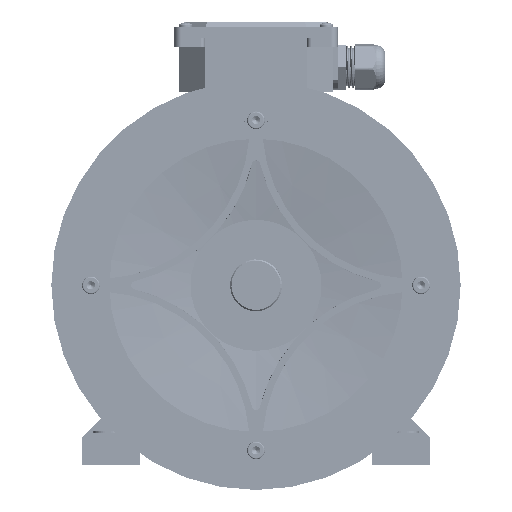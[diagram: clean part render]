
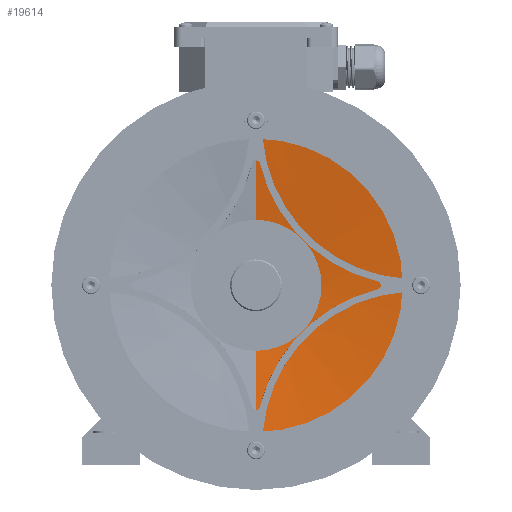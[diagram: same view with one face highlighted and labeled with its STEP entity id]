
A CAD part, front view. The second image highlights one B-rep face of the part: STEP entity #19614.
In plain terms, the highlighted conical face has half-angle 83.29 degrees and reference radius 48 mm.
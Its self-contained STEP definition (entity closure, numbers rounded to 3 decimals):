
#4152 = DIRECTION ( 'NONE',  ( 0., -1., 0. ) ) ;
#4376 = DIRECTION ( 'NONE',  ( 0., -1., 0. ) ) ;
#9100 = VECTOR ( 'NONE', #101259, 1000. ) ;
#13973 = VECTOR ( 'NONE', #22077, 1000. ) ;
#19614 = ADVANCED_FACE ( 'NONE', ( #115448 ), #111971, .F. ) ;
#21231 = CIRCLE ( 'NONE', #49731, 48. ) ;
#22077 = DIRECTION ( 'NONE',  ( 0., -0.117, 0.993 ) ) ;
#30623 = VERTEX_POINT ( 'NONE', #129067 ) ;
#38181 = AXIS2_PLACEMENT_3D ( 'NONE', #42997, #87299, #54049 ) ;
#39614 = CARTESIAN_POINT ( 'NONE',  ( 0., 8.363, -107.5 ) ) ;
#42997 = CARTESIAN_POINT ( 'NONE',  ( 0., 15.363, 0. ) ) ;
#45414 = EDGE_CURVE ( 'NONE', #124846, #135078, #100401, .T. ) ;
#47561 = CARTESIAN_POINT ( 'NONE',  ( 0., 8.363, 107.5 ) ) ;
#49731 = AXIS2_PLACEMENT_3D ( 'NONE', #70236, #4376, #81296 ) ;
#53763 = ORIENTED_EDGE ( 'NONE', *, *, #94667, .F. ) ;
#54049 = DIRECTION ( 'NONE',  ( 0., 0., -1. ) ) ;
#63306 = EDGE_CURVE ( 'NONE', #135078, #114547, #114231, .T. ) ;
#70018 = CARTESIAN_POINT ( 'NONE',  ( 0., 8.363, 0. ) ) ;
#70236 = CARTESIAN_POINT ( 'NONE',  ( 0., 15.363, 0. ) ) ;
#79059 = CARTESIAN_POINT ( 'NONE',  ( 0., 15.363, -48. ) ) ;
#80756 = AXIS2_PLACEMENT_3D ( 'NONE', #70018, #4152, #81068 ) ;
#81068 = DIRECTION ( 'NONE',  ( 0., 0., -1. ) ) ;
#81296 = DIRECTION ( 'NONE',  ( 0., 0., -1. ) ) ;
#82767 = CARTESIAN_POINT ( 'NONE',  ( 0., 15.363, -48. ) ) ;
#87299 = DIRECTION ( 'NONE',  ( 0., -1., 0. ) ) ;
#94667 = EDGE_CURVE ( 'NONE', #124846, #30623, #21231, .T. ) ;
#98367 = LINE ( 'NONE', #121208, #13973 ) ;
#100401 = LINE ( 'NONE', #79059, #9100 ) ;
#101259 = DIRECTION ( 'NONE',  ( 0., -0.117, -0.993 ) ) ;
#103931 = ORIENTED_EDGE ( 'NONE', *, *, #126792, .F. ) ;
#108089 = ORIENTED_EDGE ( 'NONE', *, *, #45414, .T. ) ;
#111971 = CONICAL_SURFACE ( 'NONE', #38181, 48., 1.454 ) ;
#113702 = EDGE_LOOP ( 'NONE', ( #103931, #53763, #108089, #131581 ) ) ;
#114231 = CIRCLE ( 'NONE', #80756, 107.5 ) ;
#114547 = VERTEX_POINT ( 'NONE', #47561 ) ;
#115448 = FACE_OUTER_BOUND ( 'NONE', #113702, .T. ) ;
#121208 = CARTESIAN_POINT ( 'NONE',  ( 0., 15.363, 48. ) ) ;
#124846 = VERTEX_POINT ( 'NONE', #82767 ) ;
#126792 = EDGE_CURVE ( 'NONE', #30623, #114547, #98367, .T. ) ;
#129067 = CARTESIAN_POINT ( 'NONE',  ( 0., 15.363, 48. ) ) ;
#131581 = ORIENTED_EDGE ( 'NONE', *, *, #63306, .T. ) ;
#135078 = VERTEX_POINT ( 'NONE', #39614 ) ;
